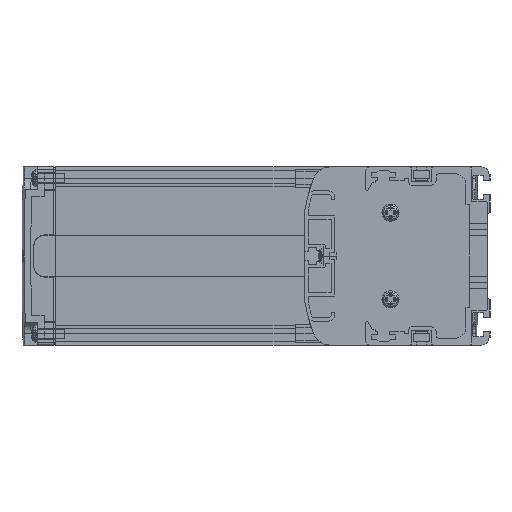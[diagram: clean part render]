
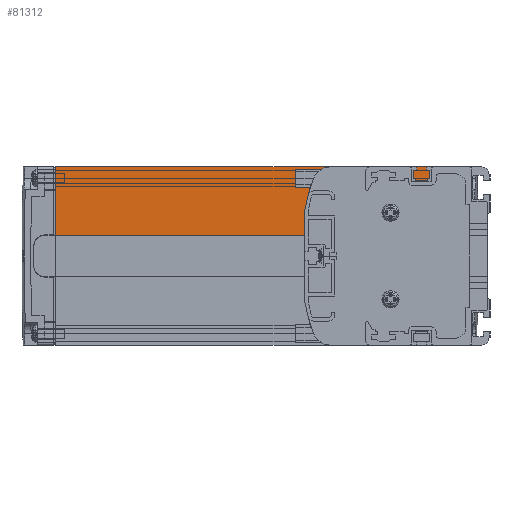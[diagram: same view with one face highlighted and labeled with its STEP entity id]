
A CAD part, left-side view. The second image highlights one B-rep face of the part: STEP entity #81312.
In plain terms, the highlighted planar face has unit normal (-1, 0, 0).
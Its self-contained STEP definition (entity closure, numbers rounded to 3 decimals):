
#79253=DIRECTION('',(0.,-1.,0.));
#79254=VECTOR('',#79253,51.);
#79255=CARTESIAN_POINT('',(3.,71.,27.));
#79256=LINE('',#79255,#79254);
#79902=DIRECTION('',(0.,-1.,0.));
#79903=VECTOR('',#79902,170.);
#79904=CARTESIAN_POINT('',(3.,190.,39.));
#79905=LINE('',#79904,#79903);
#79920=DIRECTION('',(0.,0.,-1.));
#79921=VECTOR('',#79920,29.9);
#79922=CARTESIAN_POINT('',(3.,190.,39.));
#79923=LINE('',#79922,#79921);
#79924=DIRECTION('',(0.,0.,1.));
#79925=VECTOR('',#79924,12.);
#79926=CARTESIAN_POINT('',(3.,20.,27.));
#79927=LINE('',#79926,#79925);
#79928=DIRECTION('',(0.,0.,1.));
#79929=VECTOR('',#79928,17.9);
#79930=CARTESIAN_POINT('',(3.,71.,9.1));
#79931=LINE('',#79930,#79929);
#80038=DIRECTION('',(0.,-1.,0.));
#80039=VECTOR('',#80038,119.);
#80040=CARTESIAN_POINT('',(3.,190.,9.1));
#80041=LINE('',#80040,#80039);
#80125=CARTESIAN_POINT('',(3.,20.,27.));
#80127=VERTEX_POINT('',#80125);
#80219=CARTESIAN_POINT('',(3.,20.,39.));
#80220=VERTEX_POINT('',#80219);
#80293=CARTESIAN_POINT('',(3.,190.,39.));
#80294=VERTEX_POINT('',#80293);
#80295=CARTESIAN_POINT('',(3.,190.,9.1));
#80296=VERTEX_POINT('',#80295);
#80357=CARTESIAN_POINT('',(3.,71.,27.));
#80358=VERTEX_POINT('',#80357);
#80359=CARTESIAN_POINT('',(3.,71.,9.1));
#80360=VERTEX_POINT('',#80359);
#81297=CARTESIAN_POINT('',(3.,105.,24.05));
#81298=DIRECTION('',(1.,0.,0.));
#81299=DIRECTION('',(0.,0.,1.));
#81300=AXIS2_PLACEMENT_3D('',#81297,#81298,#81299);
#81301=PLANE('',#81300);
#81302=ORIENTED_EDGE('',*,*,#80543,.F.);
#81304=ORIENTED_EDGE('',*,*,#81303,.F.);
#81306=ORIENTED_EDGE('',*,*,#81305,.F.);
#81307=ORIENTED_EDGE('',*,*,#80871,.F.);
#81308=ORIENTED_EDGE('',*,*,#81285,.T.);
#81309=ORIENTED_EDGE('',*,*,#80412,.F.);
#81310=EDGE_LOOP('',(#81302,#81304,#81306,#81307,#81308,#81309));
#81311=FACE_OUTER_BOUND('',#81310,.F.);
#81312=ADVANCED_FACE('',(#81311),#81301,.F.);
#80412=EDGE_CURVE('',#80127,#80220,#79927,.T.);
#80543=EDGE_CURVE('',#80358,#80127,#79256,.T.);
#80871=EDGE_CURVE('',#80294,#80296,#79923,.T.);
#81285=EDGE_CURVE('',#80294,#80220,#79905,.T.);
#81303=EDGE_CURVE('',#80360,#80358,#79931,.T.);
#81305=EDGE_CURVE('',#80296,#80360,#80041,.T.);
